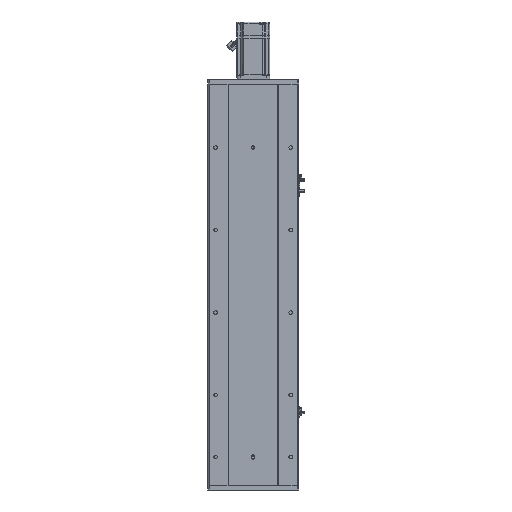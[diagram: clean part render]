
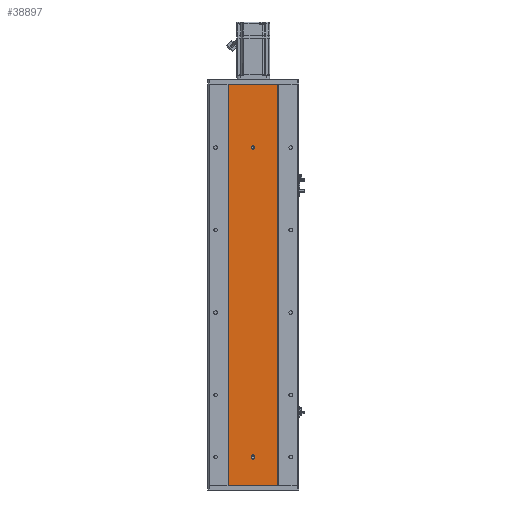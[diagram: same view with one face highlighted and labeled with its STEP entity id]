
A CAD part, front view. The second image highlights one B-rep face of the part: STEP entity #38897.
In plain terms, the highlighted planar face has unit normal (0, -1, 0).
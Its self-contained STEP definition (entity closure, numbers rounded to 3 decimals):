
#787 = VECTOR ( 'NONE', #45756, 1000. ) ;
#920 = EDGE_CURVE ( 'NONE', #52538, #29811, #60839, .T. ) ;
#1248 = CARTESIAN_POINT ( 'NONE',  ( -4., 0., 68.5 ) ) ;
#1375 = EDGE_CURVE ( 'NONE', #57821, #5705, #48669, .T. ) ;
#1472 = FACE_BOUND ( 'NONE', #6009, .T. ) ;
#1807 = DIRECTION ( 'NONE',  ( 0., -1., 0. ) ) ;
#1952 = EDGE_CURVE ( 'NONE', #18079, #29811, #27631, .T. ) ;
#3314 = ORIENTED_EDGE ( 'NONE', *, *, #920, .T. ) ;
#4125 = DIRECTION ( 'NONE',  ( 0., 0., 1. ) ) ;
#4335 = DIRECTION ( 'NONE',  ( 0., 1., 0. ) ) ;
#5705 = VERTEX_POINT ( 'NONE', #31376 ) ;
#5911 = CARTESIAN_POINT ( 'NONE',  ( 4., 0., 71.5 ) ) ;
#6009 = EDGE_LOOP ( 'NONE', ( #43663, #51509, #24639, #46522, #34326 ) ) ;
#6922 = DIRECTION ( 'NONE',  ( 0., 0., -1. ) ) ;
#7942 = FACE_BOUND ( 'NONE', #12793, .T. ) ;
#8078 = CARTESIAN_POINT ( 'NONE',  ( 0., 0., 64.5 ) ) ;
#8848 = EDGE_CURVE ( 'NONE', #14097, #25731, #30007, .T. ) ;
#11059 = DIRECTION ( 'NONE',  ( 0., 0., 1. ) ) ;
#11675 = VERTEX_POINT ( 'NONE', #25620 ) ;
#11863 = CARTESIAN_POINT ( 'NONE',  ( -4., 0., 71.5 ) ) ;
#12145 = CIRCLE ( 'NONE', #35260, 4. ) ;
#12793 = EDGE_LOOP ( 'NONE', ( #54678, #50536 ) ) ;
#13459 = CIRCLE ( 'NONE', #31601, 4. ) ;
#13792 = CARTESIAN_POINT ( 'NONE',  ( -60., 0., 974. ) ) ;
#14097 = VERTEX_POINT ( 'NONE', #51532 ) ;
#14543 = CARTESIAN_POINT ( 'NONE',  ( 60., 0., 974. ) ) ;
#15429 = DIRECTION ( 'NONE',  ( 1., 0., 0. ) ) ;
#15534 = ORIENTED_EDGE ( 'NONE', *, *, #42352, .F. ) ;
#15671 = EDGE_CURVE ( 'NONE', #11675, #52538, #45907, .T. ) ;
#16361 = CARTESIAN_POINT ( 'NONE',  ( 0., 0., 820. ) ) ;
#16564 = CARTESIAN_POINT ( 'NONE',  ( 0., 0., 71.5 ) ) ;
#16680 = DIRECTION ( 'NONE',  ( 0., 0., -1. ) ) ;
#17121 = CARTESIAN_POINT ( 'NONE',  ( 0., 0., 68.5 ) ) ;
#18079 = VERTEX_POINT ( 'NONE', #25602 ) ;
#19581 = DIRECTION ( 'NONE',  ( 0., -1., 0. ) ) ;
#20540 = AXIS2_PLACEMENT_3D ( 'NONE', #24683, #55382, #55160 ) ;
#21665 = VERTEX_POINT ( 'NONE', #30029 ) ;
#22007 = VECTOR ( 'NONE', #33422, 1000. ) ;
#22723 = EDGE_CURVE ( 'NONE', #21665, #50560, #32270, .T. ) ;
#23878 = VERTEX_POINT ( 'NONE', #8078 ) ;
#24639 = ORIENTED_EDGE ( 'NONE', *, *, #1375, .F. ) ;
#24683 = CARTESIAN_POINT ( 'NONE',  ( 0., 0., 820. ) ) ;
#25602 = CARTESIAN_POINT ( 'NONE',  ( 60., 0., 974. ) ) ;
#25620 = CARTESIAN_POINT ( 'NONE',  ( -60., 0., 974. ) ) ;
#25731 = VERTEX_POINT ( 'NONE', #35384 ) ;
#25995 = CARTESIAN_POINT ( 'NONE',  ( -60., 0., 0. ) ) ;
#27270 = FACE_OUTER_BOUND ( 'NONE', #53114, .T. ) ;
#27372 = DIRECTION ( 'NONE',  ( 0., -1., 0. ) ) ;
#27631 = LINE ( 'NONE', #14543, #22007 ) ;
#29744 = PLANE ( 'NONE',  #36166 ) ;
#29811 = VERTEX_POINT ( 'NONE', #44901 ) ;
#30007 = CIRCLE ( 'NONE', #20540, 4. ) ;
#30029 = CARTESIAN_POINT ( 'NONE',  ( -4., 0., 71.5 ) ) ;
#31376 = CARTESIAN_POINT ( 'NONE',  ( 4., 0., 71.5 ) ) ;
#31601 = AXIS2_PLACEMENT_3D ( 'NONE', #61318, #19581, #51161 ) ;
#31648 = CIRCLE ( 'NONE', #60306, 4. ) ;
#32116 = DIRECTION ( 'NONE',  ( 0., -1., 0. ) ) ;
#32270 = LINE ( 'NONE', #11863, #57358 ) ;
#32884 = VECTOR ( 'NONE', #36618, 1000. ) ;
#33422 = DIRECTION ( 'NONE',  ( 0., 0., -1. ) ) ;
#33888 = EDGE_CURVE ( 'NONE', #23878, #57821, #13459, .T. ) ;
#34326 = ORIENTED_EDGE ( 'NONE', *, *, #63262, .F. ) ;
#35260 = AXIS2_PLACEMENT_3D ( 'NONE', #16564, #32116, #42483 ) ;
#35384 = CARTESIAN_POINT ( 'NONE',  ( 0., 0., 816. ) ) ;
#36155 = ORIENTED_EDGE ( 'NONE', *, *, #1952, .F. ) ;
#36166 = AXIS2_PLACEMENT_3D ( 'NONE', #13792, #4335, #4125 ) ;
#36618 = DIRECTION ( 'NONE',  ( 1., 0., 0. ) ) ;
#37590 = EDGE_CURVE ( 'NONE', #5705, #21665, #12145, .T. ) ;
#37774 = DIRECTION ( 'NONE',  ( 0., 0., -1. ) ) ;
#38897 = ADVANCED_FACE ( 'NONE', ( #7942, #1472, #27270 ), #29744, .F. ) ;
#42352 = EDGE_CURVE ( 'NONE', #11675, #18079, #60341, .T. ) ;
#42483 = DIRECTION ( 'NONE',  ( 0., 0., -1. ) ) ;
#43663 = ORIENTED_EDGE ( 'NONE', *, *, #22723, .F. ) ;
#44901 = CARTESIAN_POINT ( 'NONE',  ( 60., 0., 0. ) ) ;
#45756 = DIRECTION ( 'NONE',  ( 0., 0., -1. ) ) ;
#45907 = LINE ( 'NONE', #65873, #787 ) ;
#46522 = ORIENTED_EDGE ( 'NONE', *, *, #33888, .F. ) ;
#46754 = CARTESIAN_POINT ( 'NONE',  ( -60., 0., 974. ) ) ;
#48669 = LINE ( 'NONE', #5911, #50286 ) ;
#49498 = VECTOR ( 'NONE', #15429, 1000. ) ;
#50076 = CARTESIAN_POINT ( 'NONE',  ( -60., 0., 0. ) ) ;
#50286 = VECTOR ( 'NONE', #11059, 1000. ) ;
#50318 = ORIENTED_EDGE ( 'NONE', *, *, #15671, .T. ) ;
#50518 = EDGE_CURVE ( 'NONE', #25731, #14097, #31648, .T. ) ;
#50536 = ORIENTED_EDGE ( 'NONE', *, *, #8848, .F. ) ;
#50560 = VERTEX_POINT ( 'NONE', #1248 ) ;
#51161 = DIRECTION ( 'NONE',  ( 0., 0., -1. ) ) ;
#51349 = AXIS2_PLACEMENT_3D ( 'NONE', #17121, #1807, #16680 ) ;
#51509 = ORIENTED_EDGE ( 'NONE', *, *, #37590, .F. ) ;
#51532 = CARTESIAN_POINT ( 'NONE',  ( 0., 0., 824. ) ) ;
#52538 = VERTEX_POINT ( 'NONE', #50076 ) ;
#53114 = EDGE_LOOP ( 'NONE', ( #3314, #36155, #15534, #50318 ) ) ;
#54678 = ORIENTED_EDGE ( 'NONE', *, *, #50518, .F. ) ;
#55160 = DIRECTION ( 'NONE',  ( 0., 0., -1. ) ) ;
#55382 = DIRECTION ( 'NONE',  ( 0., -1., 0. ) ) ;
#57358 = VECTOR ( 'NONE', #6922, 1000. ) ;
#57821 = VERTEX_POINT ( 'NONE', #61362 ) ;
#60306 = AXIS2_PLACEMENT_3D ( 'NONE', #16361, #27372, #37774 ) ;
#60341 = LINE ( 'NONE', #46754, #32884 ) ;
#60839 = LINE ( 'NONE', #25995, #49498 ) ;
#61318 = CARTESIAN_POINT ( 'NONE',  ( 0., 0., 68.5 ) ) ;
#61362 = CARTESIAN_POINT ( 'NONE',  ( 4., 0., 68.5 ) ) ;
#63262 = EDGE_CURVE ( 'NONE', #50560, #23878, #66117, .T. ) ;
#65873 = CARTESIAN_POINT ( 'NONE',  ( -60., 0., 974. ) ) ;
#66117 = CIRCLE ( 'NONE', #51349, 4. ) ;
